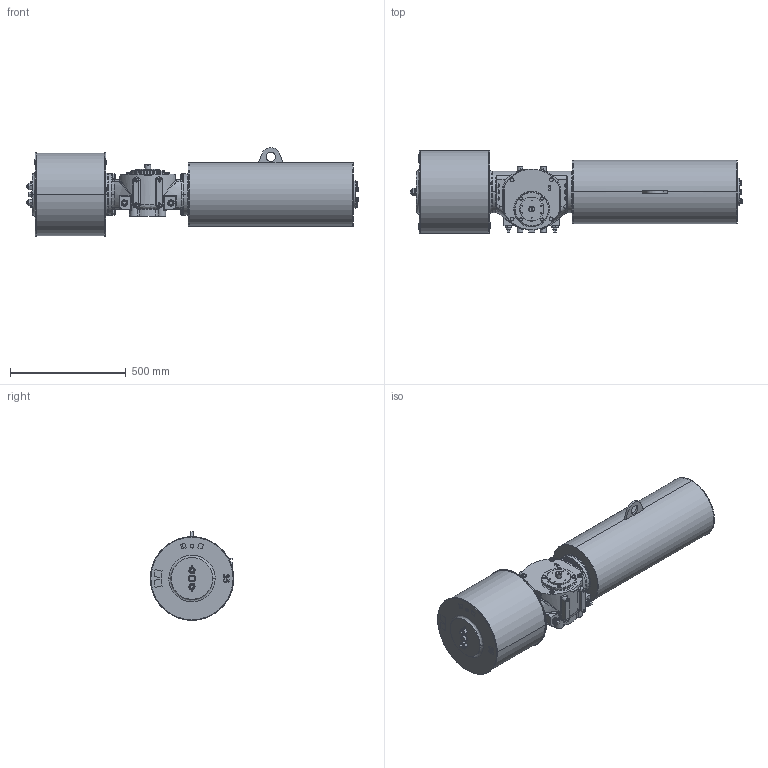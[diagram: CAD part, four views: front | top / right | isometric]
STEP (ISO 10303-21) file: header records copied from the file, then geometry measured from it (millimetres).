
FILE_DESCRIPTION (( 'STEP AP203' ), '1' );
FILE_NAME ('VTS2-350-SR-FC.STEP', '2023-01-01T07:50:25', ( '' ), ( '' ), 'SwSTEP 2.0', 'SolidWorks 2020', '' );
FILE_SCHEMA (( 'CONFIG_CONTROL_DESIGN' ));
Length unit declared in the file: millimetre
Products named in the file (1): VTS2-350-SR-FC
Bounding box: 1434.78 x 362 x 383.5 mm (x, y, z)
Volume: 84165326.4 mm3; surface area: 1837932 mm2
Topology: 4 solids, 6 shells, 1830 faces, 4651 edges, 2923 vertices
Faces by surface type: plane 713, cylinder 561, cone 395, bspline 161
Entity records: 70607 total; most frequent: CARTESIAN_POINT 27706, ORIENTED_EDGE 9202, DIRECTION 8761, EDGE_CURVE 4601, AXIS2_PLACEMENT_3D 3468, VERTEX_POINT 2923, EDGE_LOOP 2032, ADVANCED_FACE 1830
